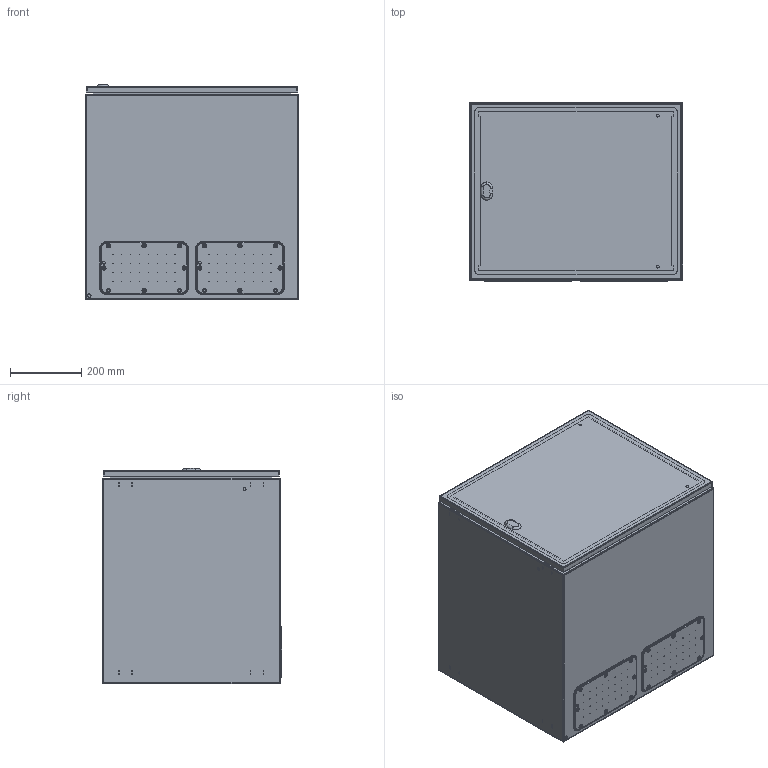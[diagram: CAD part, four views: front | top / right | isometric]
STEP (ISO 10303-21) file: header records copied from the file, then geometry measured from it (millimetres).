
FILE_DESCRIPTION (( 'STEP AP203' ), '1' );
FILE_NAME ('APRO06560BC.STEP', '2022-01-05T14:01:42', ( '' ), ( '' ), 'SwSTEP 2.0', 'SolidWorks 2021', '' );
FILE_SCHEMA (( 'CONFIG_CONTROL_DESIGN' ));
Length unit declared in the file: millimetre
Products named in the file (8): APRO06560BC; AR_BOX ABACUS PRO_involucro_0600x0500x0600; AR_ECOR_montaggio_porta_singola_0600x0500; AR_ECOR_flangia IC_03; AR_ECOR_porta_singola_0600x0500; 03008060001_08; 03008080701_03; AR_ECOR_chiusura_std_STD
Assembly tree (12 placements, depth 3):
  APRO06560BC
    AR_BOX ABACUS PRO_involucro_0600x0500x0600
    AR_ECOR_montaggio_porta_singola_0600x0500
      AR_ECOR_porta_singola_0600x0500
      AR_ECOR_chiusura_std_STD
    AR_ECOR_flangia IC_03  x2
    03008060001_08  x4
    03008080701_03  x2
Bounding box: 600 x 504 x 605 mm (x, y, z)
Volume: 3409799.5 mm3; surface area: 4551521.4 mm2
Topology: 11 solids, 11 shells, 3943 faces, 10744 edges, 6548 vertices
Faces by surface type: plane 2487, cylinder 1191, cone 108, torus 73, bspline 68, sphere 16
Entity records: 52342 total; most frequent: CARTESIAN_POINT 10030, DIRECTION 8611, ORIENTED_EDGE 8592, EDGE_CURVE 4296, LINE 2943, VECTOR 2943, AXIS2_PLACEMENT_3D 2834, VERTEX_POINT 2674
